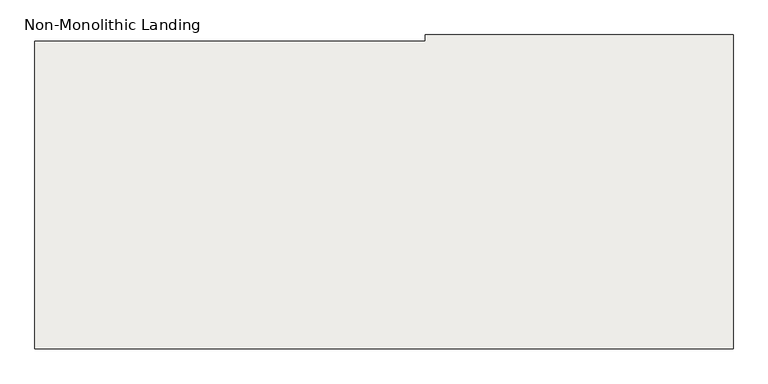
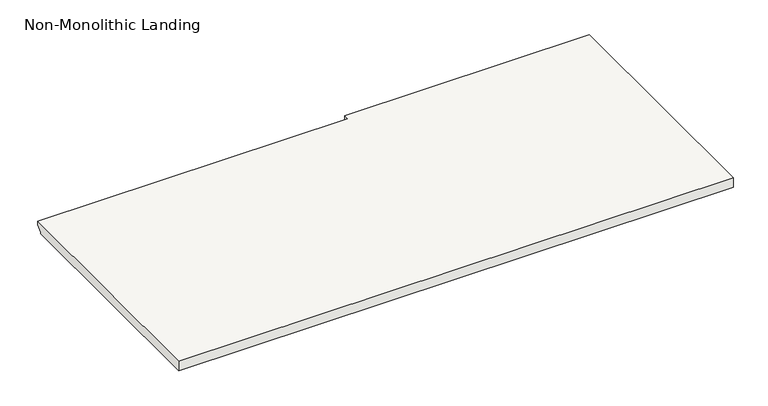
"""IFC4 building model written with IfcOpenShell, lengths in millimetres: slab geometry, Non-Monolithic Landing."""

from ifc_helpers import new_model, si_unit, origin, place, context, project, spatial, faceted_brep, source, transform, mapped, element, save


def non_monolithic_landing_6f77f96c(model_context):
    return source(origin(), model_context, "Body", "Brep", [
        faceted_brep([(16217.9060672, 1981.1997725, 7189.47), (16217.9060672, 2006.5997725, 7214.87), (17449.8060671, 2006.5997725, 7214.87), (17449.8060671, 1981.1997725, 7189.47), (16217.9060672, 755.65, 7233.92), (19057.4642027, 755.65, 7233.92), (19057.4642027, 2006.6, 7233.92), (19057.4642027, 2032.0, 7233.92), (17805.4060672, 2032.0, 7233.92), (17805.4060672, 2006.6, 7233.92), (16217.9060672, 2006.5997725, 7233.92), (17449.8060671, 1981.1997725, 7183.12), (17449.8060671, 2006.5997725, 7183.12), (17805.4060672, 2006.6, 7183.12), (17805.4060672, 2032.0, 7183.12), (19057.4642027, 2032.0, 7183.12), (19057.4642027, 2006.6, 7183.12), (19057.4642027, 755.65, 7183.12), (16217.9060672, 755.65, 7183.12), (16217.9060672, 1981.1997725, 7183.12)], [[[0, 1, 2, 3]], [[4, 5, 6, 7, 8, 9, 10]], [[11, 12, 13, 14, 15, 16, 17, 18, 19]], [[12, 11, 3, 2]], [[11, 19, 0, 3]], [[4, 10, 1, 0, 19, 18]], [[5, 4, 18, 17]], [[6, 5, 17, 16]], [[7, 6, 16, 15]], [[8, 7, 15, 14]], [[9, 8, 14, 13]], [[10, 9, 13, 12, 2, 1]]]),
    ])


if __name__ == "__main__":
    model = new_model("IFC4")
    model_context = context("Model", 3, world=origin())
    ifc_project = project(units=[si_unit("LENGTHUNIT", "METRE", prefix="MILLI")], contexts=[model_context])
    site = spatial("IfcSite", under=ifc_project)
    building = spatial("IfcBuilding", under=site)
    placement = place(None, origin())
    non_monolithic_landing_shape = non_monolithic_landing_6f77f96c(model_context)
    element("IfcSlab", 1, ObjectType="Non-Monolithic Landing", at=placement, inside=building, context=model_context, shape_type="MappedRepresentation", body=[
        mapped(non_monolithic_landing_shape, transform((0.0, 0.0, 0.0), x_axis=(1.0, 0.0, 0.0), y_axis=(0.0, 1.0, 0.0), z_axis=(0.0, 0.0, 1.0))),
    ])
    save(model, "model.ifc")
